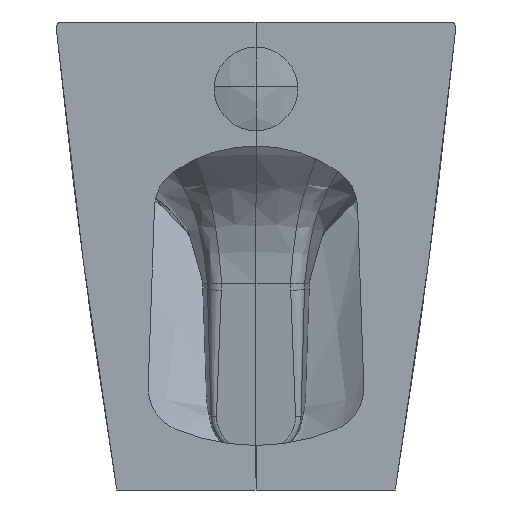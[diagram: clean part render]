
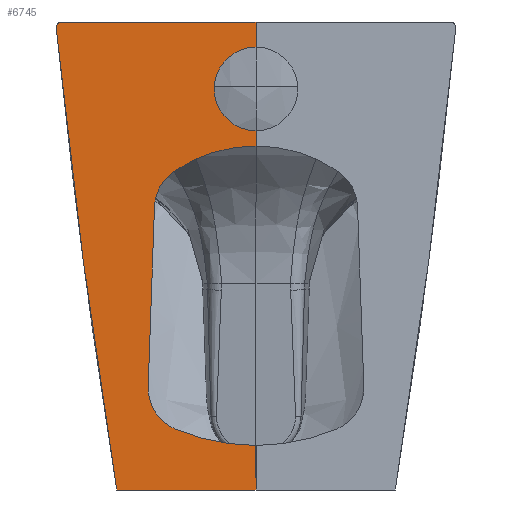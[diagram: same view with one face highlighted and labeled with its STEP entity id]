
A CAD part, left-side view. The second image highlights one B-rep face of the part: STEP entity #6745.
In plain terms, the highlighted planar face has unit normal (-1, 0, 0).
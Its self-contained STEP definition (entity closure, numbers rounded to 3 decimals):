
#6602=AXIS2_PLACEMENT_3D('Plane Axis2P3D',#6599,#6600,#6601) ;
#6670=AXIS2_PLACEMENT_3D('Circle Axis2P3D',#6668,#6669,$) ;
#6677=AXIS2_PLACEMENT_3D('Circle Axis2P3D',#6675,#6676,$) ;
#6691=AXIS2_PLACEMENT_3D('Circle Axis2P3D',#6689,#6690,$) ;
#6698=AXIS2_PLACEMENT_3D('Circle Axis2P3D',#6696,#6697,$) ;
#6712=AXIS2_PLACEMENT_3D('Circle Axis2P3D',#6710,#6711,$) ;
#6719=AXIS2_PLACEMENT_3D('Circle Axis2P3D',#6717,#6718,$) ;
#6599=CARTESIAN_POINT('Axis2P3D Location',(0.,0.,0.)) ;
#6604=CARTESIAN_POINT('Line Origine',(0.,87.15,0.)) ;
#6608=CARTESIAN_POINT('Vertex',(0.,0.,0.)) ;
#6610=CARTESIAN_POINT('Vertex',(0.,174.3,0.)) ;
#6614=CARTESIAN_POINT('Control Point',(0.,174.3,0.)) ;
#6615=CARTESIAN_POINT('Control Point',(0.,174.848,0.)) ;
#6616=CARTESIAN_POINT('Control Point',(0.,175.396,-0.075)) ;
#6617=CARTESIAN_POINT('Control Point',(0.,175.93,-0.225)) ;
#6618=CARTESIAN_POINT('Control Point',(0.,176.943,-0.667)) ;
#6619=CARTESIAN_POINT('Control Point',(0.,177.8,-1.366)) ;
#6620=CARTESIAN_POINT('Control Point',(0.,178.178,-1.772)) ;
#6621=CARTESIAN_POINT('Control Point',(0.,178.686,-2.496)) ;
#6622=CARTESIAN_POINT('Control Point',(0.,179.023,-3.308)) ;
#6623=CARTESIAN_POINT('Control Point',(0.,179.124,-3.623)) ;
#6624=CARTESIAN_POINT('Control Point',(0.,179.248,-4.158)) ;
#6625=CARTESIAN_POINT('Control Point',(0.,179.299,-4.704)) ;
#6626=CARTESIAN_POINT('Control Point',(0.,179.307,-4.923)) ;
#6627=CARTESIAN_POINT('Control Point',(0.,179.303,-5.171)) ;
#6628=CARTESIAN_POINT('Control Point',(0.,179.283,-5.418)) ;
#6629=CARTESIAN_POINT('Control Point',(0.,179.281,-5.446)) ;
#6630=CARTESIAN_POINT('Control Point',(0.,179.278,-5.475)) ;
#6631=CARTESIAN_POINT('Control Point',(0.,179.275,-5.503)) ;
#6632=CARTESIAN_POINT('Vertex',(0.,179.275,-5.503)) ;
#6636=CARTESIAN_POINT('Control Point',(0.,179.275,-5.503)) ;
#6637=CARTESIAN_POINT('Control Point',(0.,176.785,-30.12)) ;
#6638=CARTESIAN_POINT('Control Point',(0.,174.189,-54.725)) ;
#6639=CARTESIAN_POINT('Control Point',(0.,171.464,-79.494)) ;
#6640=CARTESIAN_POINT('Control Point',(0.,167.244,-116.391)) ;
#6641=CARTESIAN_POINT('Control Point',(0.,162.783,-153.258)) ;
#6642=CARTESIAN_POINT('Control Point',(0.,161.268,-165.556)) ;
#6643=CARTESIAN_POINT('Control Point',(0.,157.154,-198.366)) ;
#6644=CARTESIAN_POINT('Control Point',(0.,152.848,-231.149)) ;
#6645=CARTESIAN_POINT('Control Point',(0.,150.082,-251.636)) ;
#6646=CARTESIAN_POINT('Control Point',(0.,143.701,-297.646)) ;
#6647=CARTESIAN_POINT('Control Point',(0.,136.945,-343.603)) ;
#6648=CARTESIAN_POINT('Control Point',(0.,133.08,-369.087)) ;
#6649=CARTESIAN_POINT('Control Point',(0.,129.098,-394.553)) ;
#6650=CARTESIAN_POINT('Control Point',(0.,125.,-420.)) ;
#6651=CARTESIAN_POINT('Vertex',(0.,125.,-420.)) ;
#6654=CARTESIAN_POINT('Line Origine',(0.,62.5,-420.)) ;
#6658=CARTESIAN_POINT('Vertex',(0.,0.,-420.)) ;
#6661=CARTESIAN_POINT('Line Origine',(0.,0.,-400.)) ;
#6665=CARTESIAN_POINT('Vertex',(0.,0.,-380.)) ;
#6668=CARTESIAN_POINT('Axis2P3D Location',(0.,0.,-194.226)) ;
#6672=CARTESIAN_POINT('Vertex',(0.,72.36,-365.328)) ;
#6675=CARTESIAN_POINT('Axis2P3D Location',(0.,56.78,-328.487)) ;
#6679=CARTESIAN_POINT('Vertex',(0.,96.756,-327.091)) ;
#6682=CARTESIAN_POINT('Line Origine',(0.,93.939,-246.447)) ;
#6686=CARTESIAN_POINT('Vertex',(0.,91.123,-165.803)) ;
#6689=CARTESIAN_POINT('Axis2P3D Location',(0.,51.148,-167.199)) ;
#6693=CARTESIAN_POINT('Vertex',(0.,73.907,-134.305)) ;
#6696=CARTESIAN_POINT('Axis2P3D Location',(0.,0.,-241.123)) ;
#6700=CARTESIAN_POINT('Vertex',(0.,0.,-111.23)) ;
#6703=CARTESIAN_POINT('Line Origine',(0.,0.,-104.373)) ;
#6707=CARTESIAN_POINT('Vertex',(0.,0.,-97.516)) ;
#6710=CARTESIAN_POINT('Axis2P3D Location',(0.,0.,-60.01)) ;
#6714=CARTESIAN_POINT('Vertex',(0.,37.506,-60.01)) ;
#6717=CARTESIAN_POINT('Axis2P3D Location',(0.,0.,-60.01)) ;
#6721=CARTESIAN_POINT('Vertex',(0.,0.,-22.504)) ;
#6724=CARTESIAN_POINT('Line Origine',(0.,0.,-11.252)) ;
#6600=DIRECTION('Axis2P3D Direction',(-1.,0.,0.)) ;
#6601=DIRECTION('Axis2P3D XDirection',(0.,-1.,0.)) ;
#6605=DIRECTION('Vector Direction',(0.,-1.,0.)) ;
#6655=DIRECTION('Vector Direction',(0.,1.,0.)) ;
#6662=DIRECTION('Vector Direction',(0.,0.,-1.)) ;
#6669=DIRECTION('Axis2P3D Direction',(-1.,0.,0.)) ;
#6676=DIRECTION('Axis2P3D Direction',(-1.,0.,0.)) ;
#6683=DIRECTION('Vector Direction',(0.,0.035,-0.999)) ;
#6690=DIRECTION('Axis2P3D Direction',(-1.,0.,0.)) ;
#6697=DIRECTION('Axis2P3D Direction',(-1.,0.,0.)) ;
#6704=DIRECTION('Vector Direction',(0.,0.,-1.)) ;
#6711=DIRECTION('Axis2P3D Direction',(-1.,0.,0.)) ;
#6718=DIRECTION('Axis2P3D Direction',(-1.,0.,0.)) ;
#6725=DIRECTION('Vector Direction',(0.,0.,-1.)) ;
#6606=VECTOR('Line Direction',#6605,1.) ;
#6656=VECTOR('Line Direction',#6655,1.) ;
#6663=VECTOR('Line Direction',#6662,1.) ;
#6684=VECTOR('Line Direction',#6683,1.) ;
#6705=VECTOR('Line Direction',#6704,1.) ;
#6726=VECTOR('Line Direction',#6725,1.) ;
#6730=ORIENTED_EDGE('',*,*,#6612,.T.) ;
#6731=ORIENTED_EDGE('',*,*,#6634,.T.) ;
#6732=ORIENTED_EDGE('',*,*,#6653,.F.) ;
#6733=ORIENTED_EDGE('',*,*,#6660,.T.) ;
#6734=ORIENTED_EDGE('',*,*,#6667,.F.) ;
#6735=ORIENTED_EDGE('',*,*,#6674,.F.) ;
#6736=ORIENTED_EDGE('',*,*,#6681,.F.) ;
#6737=ORIENTED_EDGE('',*,*,#6688,.F.) ;
#6738=ORIENTED_EDGE('',*,*,#6695,.F.) ;
#6739=ORIENTED_EDGE('',*,*,#6702,.F.) ;
#6740=ORIENTED_EDGE('',*,*,#6709,.F.) ;
#6741=ORIENTED_EDGE('',*,*,#6716,.F.) ;
#6742=ORIENTED_EDGE('',*,*,#6723,.F.) ;
#6743=ORIENTED_EDGE('',*,*,#6728,.F.) ;
#6745=ADVANCED_FACE('Spezza.3',(#6744),#6603,.T.) ;
#6613=B_SPLINE_CURVE_WITH_KNOTS('',5,(#6614,#6615,#6616,#6617,#6618,#6619,#6620,#6621,#6622,#6623,#6624,#6625,#6626,#6627,#6628,#6629,#6630,#6631),.UNSPECIFIED.,.F.,.U.,(6,3,3,3,3,6),(0.,3.882,7.765,10.094,11.647,11.849),.UNSPECIFIED.) ;
#6635=B_SPLINE_CURVE_WITH_KNOTS('',5,(#6636,#6637,#6638,#6639,#6640,#6641,#6642,#6643,#6644,#6645,#6646,#6647,#6648,#6649,#6650),.UNSPECIFIED.,.F.,.U.,(6,3,3,3,6),(0.,174.988,262.647,408.869,591.158),.UNSPECIFIED.) ;
#6671=CIRCLE('generated circle',#6670,185.774) ;
#6678=CIRCLE('generated circle',#6677,40.) ;
#6692=CIRCLE('generated circle',#6691,40.) ;
#6699=CIRCLE('generated circle',#6698,129.893) ;
#6713=CIRCLE('generated circle',#6712,37.506) ;
#6720=CIRCLE('generated circle',#6719,37.506) ;
#6612=EDGE_CURVE('',#6609,#6611,#6607,.F.) ;
#6634=EDGE_CURVE('',#6611,#6633,#6613,.T.) ;
#6653=EDGE_CURVE('',#6652,#6633,#6635,.F.) ;
#6660=EDGE_CURVE('',#6652,#6659,#6657,.F.) ;
#6667=EDGE_CURVE('',#6666,#6659,#6664,.T.) ;
#6674=EDGE_CURVE('',#6673,#6666,#6671,.T.) ;
#6681=EDGE_CURVE('',#6680,#6673,#6678,.T.) ;
#6688=EDGE_CURVE('',#6687,#6680,#6685,.T.) ;
#6695=EDGE_CURVE('',#6694,#6687,#6692,.T.) ;
#6702=EDGE_CURVE('',#6701,#6694,#6699,.T.) ;
#6709=EDGE_CURVE('',#6708,#6701,#6706,.T.) ;
#6716=EDGE_CURVE('',#6715,#6708,#6713,.T.) ;
#6723=EDGE_CURVE('',#6722,#6715,#6720,.T.) ;
#6728=EDGE_CURVE('',#6609,#6722,#6727,.T.) ;
#6729=EDGE_LOOP('',(#6730,#6731,#6732,#6733,#6734,#6735,#6736,#6737,#6738,#6739,#6740,#6741,#6742,#6743)) ;
#6744=FACE_OUTER_BOUND('',#6729,.T.) ;
#6607=LINE('Line',#6604,#6606) ;
#6657=LINE('Line',#6654,#6656) ;
#6664=LINE('Line',#6661,#6663) ;
#6685=LINE('Line',#6682,#6684) ;
#6706=LINE('Line',#6703,#6705) ;
#6727=LINE('Line',#6724,#6726) ;
#6603=PLANE('Plane',#6602) ;
#6609=VERTEX_POINT('',#6608) ;
#6611=VERTEX_POINT('',#6610) ;
#6633=VERTEX_POINT('',#6632) ;
#6652=VERTEX_POINT('',#6651) ;
#6659=VERTEX_POINT('',#6658) ;
#6666=VERTEX_POINT('',#6665) ;
#6673=VERTEX_POINT('',#6672) ;
#6680=VERTEX_POINT('',#6679) ;
#6687=VERTEX_POINT('',#6686) ;
#6694=VERTEX_POINT('',#6693) ;
#6701=VERTEX_POINT('',#6700) ;
#6708=VERTEX_POINT('',#6707) ;
#6715=VERTEX_POINT('',#6714) ;
#6722=VERTEX_POINT('',#6721) ;
